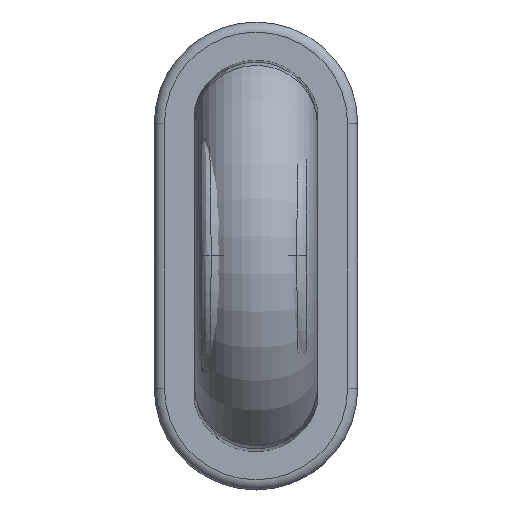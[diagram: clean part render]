
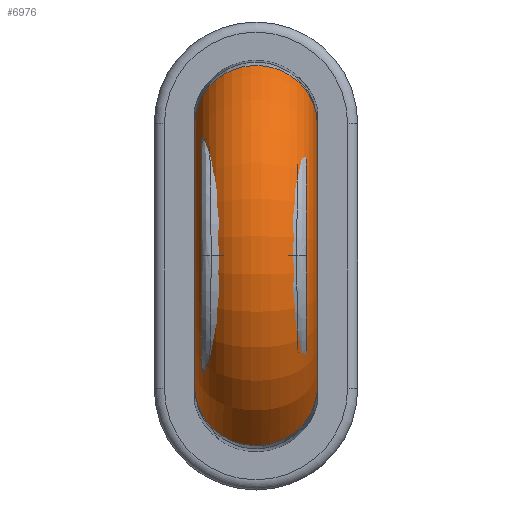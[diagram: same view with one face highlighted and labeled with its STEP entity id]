
A CAD part, top view. The second image highlights one B-rep face of the part: STEP entity #6976.
In plain terms, the highlighted toroidal (fillet/blend) face has major radius 8.2 mm and minor radius 3 mm.
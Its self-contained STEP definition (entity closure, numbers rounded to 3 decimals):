
#5964=CARTESIAN_POINT('',(-16.143,4.282,177.833));
#6101=CARTESIAN_POINT('',(-22.142,4.325,177.818));
#6129=CARTESIAN_POINT('',(-22.142,4.282,177.833));
#6130=CARTESIAN_POINT('',(-22.142,4.287,177.831));
#6131=CARTESIAN_POINT('',(-22.142,4.297,177.828));
#6132=CARTESIAN_POINT('',(-22.142,4.311,177.824));
#6133=CARTESIAN_POINT('',(-22.142,4.32,177.82));
#6134=CARTESIAN_POINT('',(-22.142,4.325,177.818));
#6136=CARTESIAN_POINT('',(-22.142,10.825,172.819));
#6137=DIRECTION('',(-1.,0.,0.));
#6138=DIRECTION('',(0.,-0.793,0.61));
#6139=AXIS2_PLACEMENT_3D('',#6136,#6137,#6138);
#6141=CARTESIAN_POINT('',(-22.142,17.325,177.818));
#6142=CARTESIAN_POINT('',(-22.142,17.33,177.82));
#6143=CARTESIAN_POINT('',(-22.142,17.339,177.824));
#6144=CARTESIAN_POINT('',(-22.142,17.354,177.828));
#6145=CARTESIAN_POINT('',(-22.142,17.363,177.831));
#6146=CARTESIAN_POINT('',(-22.142,17.368,177.833));
#6148=CARTESIAN_POINT('',(-16.143,17.368,177.833));
#6149=CARTESIAN_POINT('',(-16.142,17.363,177.831));
#6150=CARTESIAN_POINT('',(-16.142,17.354,177.828));
#6151=CARTESIAN_POINT('',(-16.142,17.339,177.824));
#6152=CARTESIAN_POINT('',(-16.142,17.33,177.82));
#6153=CARTESIAN_POINT('',(-16.142,17.325,177.818));
#6155=CARTESIAN_POINT('',(-16.142,10.825,172.819));
#6156=DIRECTION('',(1.,0.,0.));
#6157=DIRECTION('',(0.,0.793,0.61));
#6158=AXIS2_PLACEMENT_3D('',#6155,#6156,#6157);
#6160=CARTESIAN_POINT('',(-16.142,4.325,177.818));
#6161=CARTESIAN_POINT('',(-16.142,4.32,177.82));
#6162=CARTESIAN_POINT('',(-16.142,4.311,177.824));
#6163=CARTESIAN_POINT('',(-16.142,4.297,177.828));
#6164=CARTESIAN_POINT('',(-16.142,4.287,177.831));
#6165=CARTESIAN_POINT('',(-16.143,4.282,177.833));
#6167=CARTESIAN_POINT('',(-22.142,4.282,177.833));
#6168=CARTESIAN_POINT('',(-22.14,4.183,177.878));
#6169=CARTESIAN_POINT('',(-22.126,3.987,177.968));
#6170=CARTESIAN_POINT('',(-22.072,3.695,178.098));
#6171=CARTESIAN_POINT('',(-21.985,3.411,178.223));
#6172=CARTESIAN_POINT('',(-21.868,3.135,178.34));
#6173=CARTESIAN_POINT('',(-21.721,2.873,178.451));
#6174=CARTESIAN_POINT('',(-21.546,2.627,178.553));
#6175=CARTESIAN_POINT('',(-21.345,2.398,178.646));
#6176=CARTESIAN_POINT('',(-21.121,2.192,178.73));
#6177=CARTESIAN_POINT('',(-20.877,2.01,178.803));
#6178=CARTESIAN_POINT('',(-20.615,1.851,178.864));
#6179=CARTESIAN_POINT('',(-20.337,1.72,178.916));
#6180=CARTESIAN_POINT('',(-20.048,1.618,178.957));
#6181=CARTESIAN_POINT('',(-19.752,1.543,178.985));
#6182=CARTESIAN_POINT('',(-19.448,1.498,179.002));
#6183=CARTESIAN_POINT('',(-19.142,1.484,179.009));
#6184=CARTESIAN_POINT('',(-18.836,1.499,179.003));
#6185=CARTESIAN_POINT('',(-18.532,1.543,178.984));
#6186=CARTESIAN_POINT('',(-18.236,1.618,178.956));
#6187=CARTESIAN_POINT('',(-17.947,1.721,178.917));
#6188=CARTESIAN_POINT('',(-17.67,1.851,178.865));
#6189=CARTESIAN_POINT('',(-17.408,2.009,178.802));
#6190=CARTESIAN_POINT('',(-17.164,2.192,178.73));
#6191=CARTESIAN_POINT('',(-16.94,2.398,178.647));
#6192=CARTESIAN_POINT('',(-16.739,2.626,178.553));
#6193=CARTESIAN_POINT('',(-16.564,2.873,178.451));
#6194=CARTESIAN_POINT('',(-16.417,3.135,178.34));
#6195=CARTESIAN_POINT('',(-16.299,3.41,178.222));
#6196=CARTESIAN_POINT('',(-16.213,3.695,178.098));
#6197=CARTESIAN_POINT('',(-16.158,3.987,177.968));
#6198=CARTESIAN_POINT('',(-16.144,4.184,177.878));
#6199=CARTESIAN_POINT('',(-16.143,4.282,177.833));
#6369=CARTESIAN_POINT('',(-16.143,17.368,177.833));
#6370=CARTESIAN_POINT('',(-16.144,17.467,177.878));
#6371=CARTESIAN_POINT('',(-16.158,17.663,177.968));
#6372=CARTESIAN_POINT('',(-16.213,17.955,178.098));
#6373=CARTESIAN_POINT('',(-16.299,18.239,178.223));
#6374=CARTESIAN_POINT('',(-16.416,18.515,178.34));
#6375=CARTESIAN_POINT('',(-16.564,18.777,178.451));
#6376=CARTESIAN_POINT('',(-16.739,19.024,178.553));
#6377=CARTESIAN_POINT('',(-16.94,19.252,178.646));
#6378=CARTESIAN_POINT('',(-17.164,19.458,178.73));
#6379=CARTESIAN_POINT('',(-17.408,19.64,178.803));
#6380=CARTESIAN_POINT('',(-17.67,19.799,178.864));
#6381=CARTESIAN_POINT('',(-17.947,19.93,178.916));
#6382=CARTESIAN_POINT('',(-18.236,20.032,178.957));
#6383=CARTESIAN_POINT('',(-18.532,20.107,178.985));
#6384=CARTESIAN_POINT('',(-18.836,20.152,179.002));
#6385=CARTESIAN_POINT('',(-19.142,20.166,179.009));
#6386=CARTESIAN_POINT('',(-19.448,20.151,179.003));
#6387=CARTESIAN_POINT('',(-19.752,20.107,178.984));
#6388=CARTESIAN_POINT('',(-20.049,20.032,178.956));
#6389=CARTESIAN_POINT('',(-20.337,19.929,178.917));
#6390=CARTESIAN_POINT('',(-20.614,19.799,178.865));
#6391=CARTESIAN_POINT('',(-20.877,19.641,178.802));
#6392=CARTESIAN_POINT('',(-21.121,19.458,178.73));
#6393=CARTESIAN_POINT('',(-21.344,19.252,178.647));
#6394=CARTESIAN_POINT('',(-21.545,19.025,178.553));
#6395=CARTESIAN_POINT('',(-21.72,18.777,178.451));
#6396=CARTESIAN_POINT('',(-21.868,18.515,178.34));
#6397=CARTESIAN_POINT('',(-21.985,18.24,178.222));
#6398=CARTESIAN_POINT('',(-22.072,17.955,178.098));
#6399=CARTESIAN_POINT('',(-22.126,17.663,177.968));
#6400=CARTESIAN_POINT('',(-22.14,17.467,177.878));
#6401=CARTESIAN_POINT('',(-22.142,17.368,177.833));
#6502=VERTEX_POINT('',#6101);
#6503=VERTEX_POINT('',#6129);
#6504=VERTEX_POINT('',#5964);
#6505=VERTEX_POINT('',#6160);
#6506=CARTESIAN_POINT('',(-16.142,17.325,177.818));
#6507=VERTEX_POINT('',#6506);
#6508=CARTESIAN_POINT('',(-22.142,17.325,177.818));
#6509=VERTEX_POINT('',#6508);
#6510=VERTEX_POINT('',#6369);
#6511=VERTEX_POINT('',#6401);
#6957=CARTESIAN_POINT('',(-19.142,10.825,172.819));
#6958=DIRECTION('',(-1.,0.,0.));
#6959=DIRECTION('',(0.,-0.855,0.519));
#6960=AXIS2_PLACEMENT_3D('',#6957,#6958,#6959);
#6961=TOROIDAL_SURFACE('',#6960,8.2,3.);
#6963=ORIENTED_EDGE('',*,*,#6962,.F.);
#6964=ORIENTED_EDGE('',*,*,#6786,.T.);
#6965=ORIENTED_EDGE('',*,*,#6945,.T.);
#6967=ORIENTED_EDGE('',*,*,#6966,.T.);
#6969=ORIENTED_EDGE('',*,*,#6968,.F.);
#6971=ORIENTED_EDGE('',*,*,#6970,.T.);
#6972=ORIENTED_EDGE('',*,*,#6927,.T.);
#6973=ORIENTED_EDGE('',*,*,#6790,.T.);
#6974=EDGE_LOOP('',(#6963,#6964,#6965,#6967,#6969,#6971,#6972,#6973));
#6975=FACE_OUTER_BOUND('',#6974,.F.);
#6976=ADVANCED_FACE('',(#6975),#6961,.T.);
#6135=B_SPLINE_CURVE_WITH_KNOTS('',3,(#6129,#6130,#6131,#6132,#6133,#6134),
.UNSPECIFIED.,.F.,.F.,(4,1,1,4),(0.,0.333,0.667,1.),
.UNSPECIFIED.);
#6140=CIRCLE('',#6139,8.2);
#6147=B_SPLINE_CURVE_WITH_KNOTS('',3,(#6141,#6142,#6143,#6144,#6145,#6146),
.UNSPECIFIED.,.F.,.F.,(4,1,1,4),(0.,0.333,0.667,1.),
.UNSPECIFIED.);
#6154=B_SPLINE_CURVE_WITH_KNOTS('',3,(#6148,#6149,#6150,#6151,#6152,#6153),
.UNSPECIFIED.,.F.,.F.,(4,1,1,4),(0.,0.333,0.667,1.),
.UNSPECIFIED.);
#6159=CIRCLE('',#6158,8.2);
#6166=B_SPLINE_CURVE_WITH_KNOTS('',3,(#6160,#6161,#6162,#6163,#6164,#6165),
.UNSPECIFIED.,.F.,.F.,(4,1,1,4),(0.,0.333,0.667,1.),
.UNSPECIFIED.);
#6200=B_SPLINE_CURVE_WITH_KNOTS('',3,(#6167,#6168,#6169,#6170,#6171,#6172,#6173,
#6174,#6175,#6176,#6177,#6178,#6179,#6180,#6181,#6182,#6183,#6184,#6185,#6186,
#6187,#6188,#6189,#6190,#6191,#6192,#6193,#6194,#6195,#6196,#6197,#6198,#6199),
.UNSPECIFIED.,.F.,.F.,(4,1,1,1,1,1,1,1,1,1,1,1,1,1,1,1,1,1,1,1,1,1,1,1,1,1,1,1,
1,1,4),(0.,0.033,0.067,0.1,0.133,
0.167,0.2,0.233,0.267,0.3,
0.333,0.367,0.4,0.433,0.467,
0.5,0.533,0.567,0.6,0.633,
0.667,0.7,0.733,0.767,0.8,
0.833,0.867,0.9,0.933,0.967,
1.),.UNSPECIFIED.);
#6402=B_SPLINE_CURVE_WITH_KNOTS('',3,(#6369,#6370,#6371,#6372,#6373,#6374,#6375,
#6376,#6377,#6378,#6379,#6380,#6381,#6382,#6383,#6384,#6385,#6386,#6387,#6388,
#6389,#6390,#6391,#6392,#6393,#6394,#6395,#6396,#6397,#6398,#6399,#6400,#6401),
.UNSPECIFIED.,.F.,.F.,(4,1,1,1,1,1,1,1,1,1,1,1,1,1,1,1,1,1,1,1,1,1,1,1,1,1,1,1,
1,1,4),(0.,0.033,0.067,0.1,0.133,
0.167,0.2,0.233,0.267,0.3,
0.333,0.367,0.4,0.433,0.467,
0.5,0.533,0.567,0.6,0.633,
0.667,0.7,0.733,0.767,0.8,
0.833,0.867,0.9,0.933,0.967,
1.),.UNSPECIFIED.);
#6786=EDGE_CURVE('',#6503,#6502,#6135,.T.);
#6790=EDGE_CURVE('',#6505,#6504,#6166,.T.);
#6927=EDGE_CURVE('',#6507,#6505,#6159,.T.);
#6945=EDGE_CURVE('',#6502,#6509,#6140,.T.);
#6962=EDGE_CURVE('',#6503,#6504,#6200,.T.);
#6966=EDGE_CURVE('',#6509,#6511,#6147,.T.);
#6968=EDGE_CURVE('',#6510,#6511,#6402,.T.);
#6970=EDGE_CURVE('',#6510,#6507,#6154,.T.);
